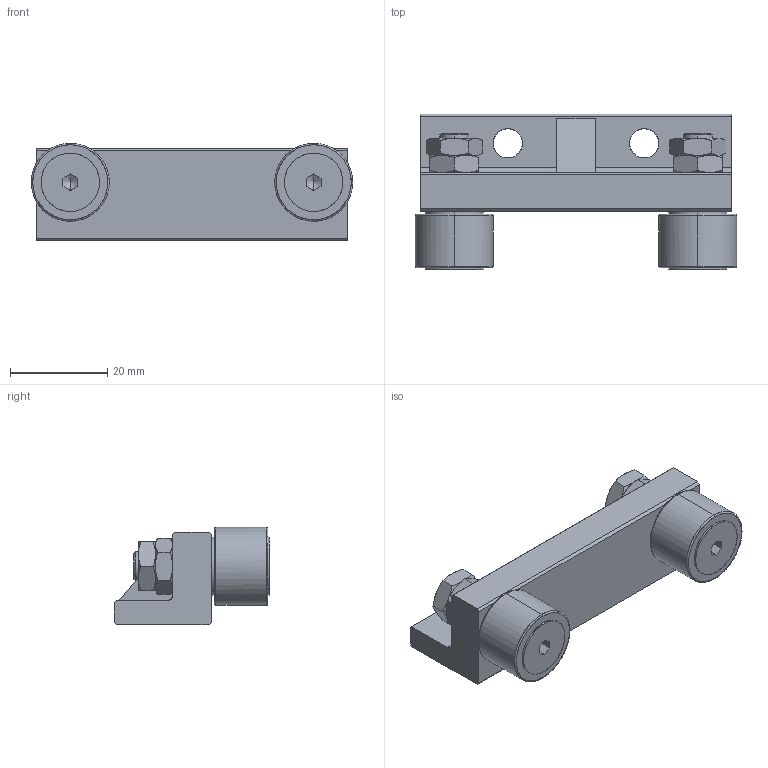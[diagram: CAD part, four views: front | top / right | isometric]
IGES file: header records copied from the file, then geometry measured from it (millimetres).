
Global section: file name: No Iges File Name specified; native system: AutoDesk Inventor R10; preprocessor: AutoDesk Inventor Iges Exporter R10; author: No Author specified; organization: No Organization specified; date: 20101225.153259; units: millimetre
Bounding box: 66 x 32 x 20 mm (x, y, z)
Surface area: 7580.7 mm2 (no closed solid volume)
Topology: 0 solids, 0 shells, 164 faces, 848 edges, 844 vertices
Faces by surface type: bspline 164
